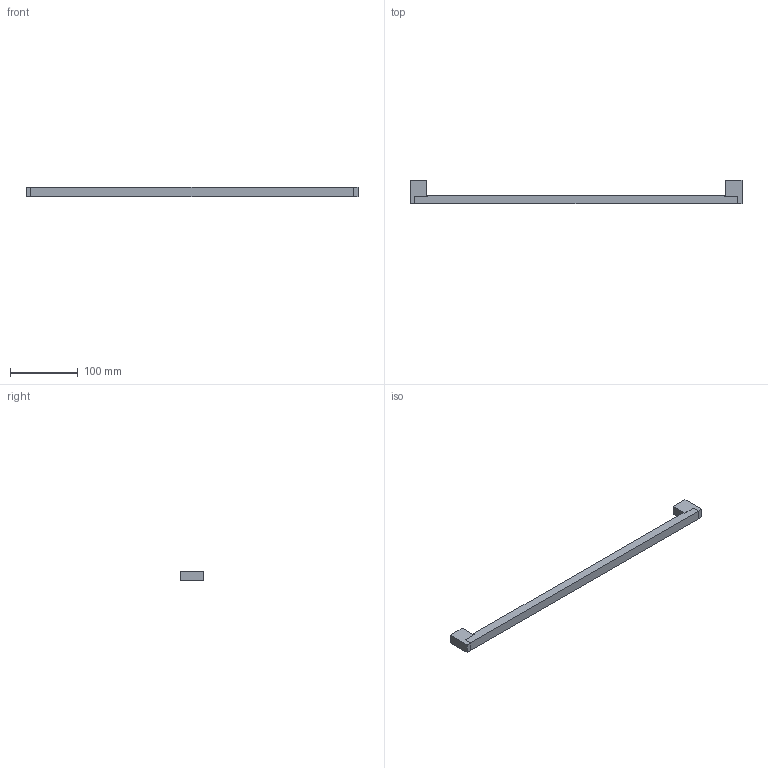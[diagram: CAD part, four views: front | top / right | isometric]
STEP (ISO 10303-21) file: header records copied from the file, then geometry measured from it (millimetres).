
FILE_DESCRIPTION( ( '' ), '1' );
FILE_NAME( 'D:/1.AUTOCAD EXPORT/Group 10/sheet_10_1/9071752.stp', '2013-10-16T10:47:40', ( '' ), ( '' ), ' ', ' ', ' ' );
FILE_SCHEMA( ( 'automotive_design' ) );
Length unit declared in the file: millimetre
Products named in the file (1): 1
Bounding box: 490 x 35 x 14 mm (x, y, z)
Volume: 104372.9 mm3; surface area: 30517.4 mm2
Topology: 1 solids, 1 shells, 44 faces, 120 edges, 80 vertices
Faces by surface type: plane 40, cylinder 4
Entity records: 2748 total; most frequent: STYLED_ITEM 245, PRESENTATION_STYLE_ASSIGNMENT 245, CARTESIAN_POINT 245, COLOUR_RGB 245, ORIENTED_EDGE 240, DIRECTION 218, EDGE_CURVE 120, CURVE_STYLE 120
